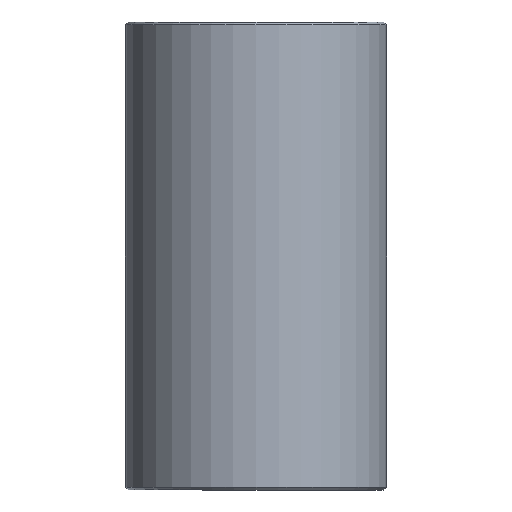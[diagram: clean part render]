
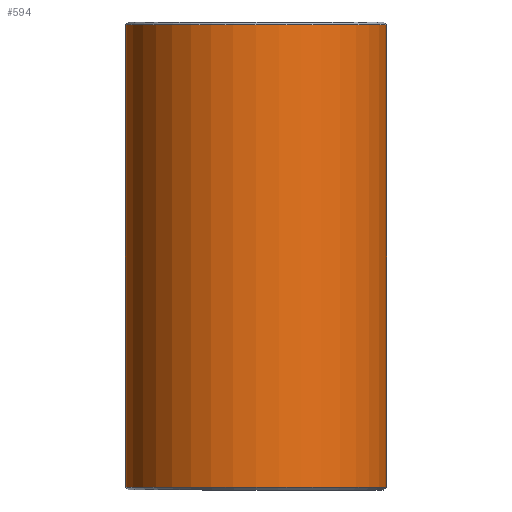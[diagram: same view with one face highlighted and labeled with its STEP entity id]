
A CAD part, front view. The second image highlights one B-rep face of the part: STEP entity #594.
In plain terms, the highlighted cylindrical face has radius 17.462 mm (diameter 34.925 mm), a partial arc.
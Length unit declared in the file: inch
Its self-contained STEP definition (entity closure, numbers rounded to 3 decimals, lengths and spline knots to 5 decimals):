
#9 = ORIENTED_EDGE ( 'NONE', *, *, #310, .T. ) ;
#72 = CARTESIAN_POINT ( 'NONE',  ( 0., 0., 2.45 ) ) ;
#98 = CARTESIAN_POINT ( 'NONE',  ( -0.6875, 0., 2.465 ) ) ;
#100 = CARTESIAN_POINT ( 'NONE',  ( -0.6875, 0., 2.45 ) ) ;
#114 = EDGE_LOOP ( 'NONE', ( #737, #9, #542, #189 ) ) ;
#127 = VERTEX_POINT ( 'NONE', #646 ) ;
#137 = DIRECTION ( 'NONE',  ( 0., 0., 1. ) ) ;
#153 = DIRECTION ( 'NONE',  ( 0., 0., -1. ) ) ;
#189 = ORIENTED_EDGE ( 'NONE', *, *, #340, .T. ) ;
#211 = CARTESIAN_POINT ( 'NONE',  ( 0.6875, 0., 2.465 ) ) ;
#221 = AXIS2_PLACEMENT_3D ( 'NONE', #309, #386, #712 ) ;
#246 = EDGE_CURVE ( 'NONE', #321, #491, #696, .T. ) ;
#252 = EDGE_CURVE ( 'NONE', #559, #127, #620, .T. ) ;
#287 = DIRECTION ( 'NONE',  ( 0., 0., -1. ) ) ;
#309 = CARTESIAN_POINT ( 'NONE',  ( 0., 0., 2.465 ) ) ;
#310 = EDGE_CURVE ( 'NONE', #321, #559, #423, .T. ) ;
#321 = VERTEX_POINT ( 'NONE', #681 ) ;
#340 = EDGE_CURVE ( 'NONE', #127, #491, #652, .T. ) ;
#386 = DIRECTION ( 'NONE',  ( 0., 0., -1. ) ) ;
#399 = FACE_OUTER_BOUND ( 'NONE', #114, .T. ) ;
#418 = CYLINDRICAL_SURFACE ( 'NONE', #221, 0.6875 ) ;
#423 = CIRCLE ( 'NONE', #796, 0.6875 ) ;
#491 = VERTEX_POINT ( 'NONE', #747 ) ;
#542 = ORIENTED_EDGE ( 'NONE', *, *, #252, .T. ) ;
#548 = CARTESIAN_POINT ( 'NONE',  ( 0., 0., 0.015 ) ) ;
#559 = VERTEX_POINT ( 'NONE', #100 ) ;
#560 = VECTOR ( 'NONE', #153, 39.37008 ) ;
#594 = ADVANCED_FACE ( 'NONE', ( #399 ), #418, .T. ) ;
#600 = VECTOR ( 'NONE', #287, 39.37008 ) ;
#616 = DIRECTION ( 'NONE',  ( 1., 0., 0. ) ) ;
#618 = DIRECTION ( 'NONE',  ( 1., 0., 0. ) ) ;
#620 = LINE ( 'NONE', #98, #560 ) ;
#646 = CARTESIAN_POINT ( 'NONE',  ( -0.6875, 0., 0.015 ) ) ;
#652 = CIRCLE ( 'NONE', #787, 0.6875 ) ;
#681 = CARTESIAN_POINT ( 'NONE',  ( 0.6875, 0., 2.45 ) ) ;
#696 = LINE ( 'NONE', #211, #600 ) ;
#700 = DIRECTION ( 'NONE',  ( 0., 0., -1. ) ) ;
#712 = DIRECTION ( 'NONE',  ( -1., 0., 0. ) ) ;
#737 = ORIENTED_EDGE ( 'NONE', *, *, #246, .F. ) ;
#747 = CARTESIAN_POINT ( 'NONE',  ( 0.6875, 0., 0.015 ) ) ;
#787 = AXIS2_PLACEMENT_3D ( 'NONE', #548, #137, #618 ) ;
#796 = AXIS2_PLACEMENT_3D ( 'NONE', #72, #700, #616 ) ;
